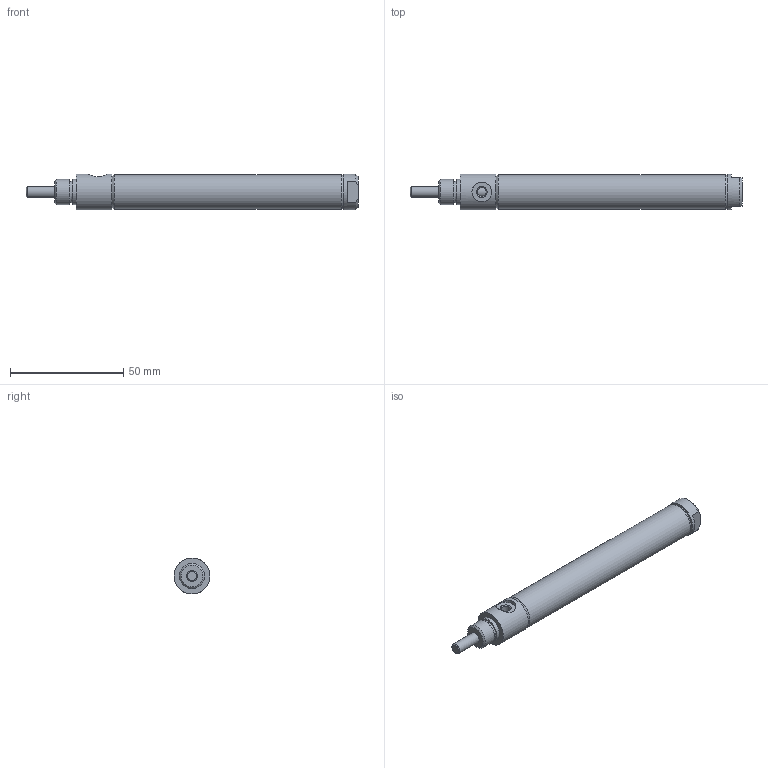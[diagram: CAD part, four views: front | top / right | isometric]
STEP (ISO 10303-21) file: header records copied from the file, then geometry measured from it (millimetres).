
FILE_DESCRIPTION( ( 'STEP AP214' ), '1' );
FILE_NAME( 'p:/temp/worker_396/temp/exporttempdir_82452_327_N7AbF/format_0/0563D01-03A.stp', '2020-05-07T12:55:12', ( 'License CC BY-ND 4.0' ), ( 'CADENAS' ), ' ', 'PARTsolutions', ' ' );
FILE_SCHEMA( ( 'AUTOMOTIVE_DESIGN { 1 0 10303 214 1 1 1 1 }' ) );
Length unit declared in the file: inch
Products named in the file (3): 0563D01-03A; _0563D01-03A-000b; _0563D01-03A-000r
Assembly tree (2 placements, depth 2):
  0563D01-03A
    _0563D01-03A-000b
    _0563D01-03A-000r
Bounding box: 146.84 x 15.88 x 15.88 mm (x, y, z)
Volume: 13333.6 mm3; surface area: 15305.9 mm2
Topology: 2 solids, 2 shells, 42 faces, 77 edges, 49 vertices
Faces by surface type: plane 18, cylinder 15, cone 9
Full cylindrical faces by diameter (mm): 3.967 x2, 4.775 x3, 4.826 x1, 8.738 x1, 9.601 x1, 11.1 x1, 11.112 x1, 14.287 x2, 15.392 x1, 15.875 x2
Entity records: 1446 total; most frequent: CARTESIAN_POINT 289, DIRECTION 176, ORIENTED_EDGE 106, AXIS2_PLACEMENT_3D 84, EDGE_LOOP 78, FACE_OUTER_BOUND 57, EDGE_CURVE 53, VERTEX_POINT 47
